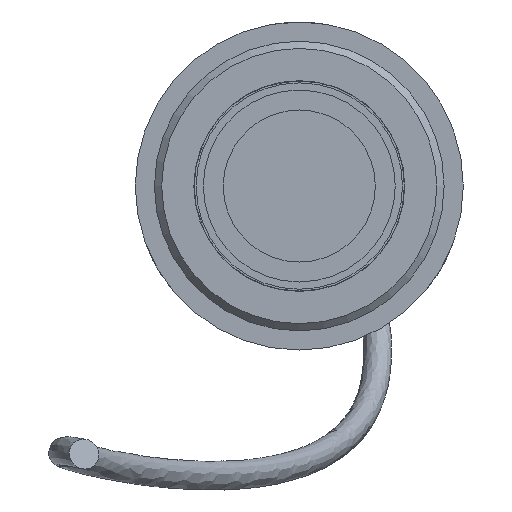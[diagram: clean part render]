
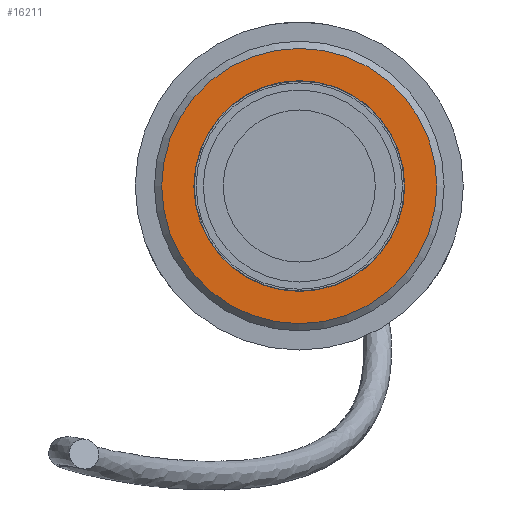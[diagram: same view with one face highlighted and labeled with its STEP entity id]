
A CAD part, front view. The second image highlights one B-rep face of the part: STEP entity #16211.
In plain terms, the highlighted planar face has unit normal (0, -1, 0).
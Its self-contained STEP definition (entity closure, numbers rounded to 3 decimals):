
#304=FACE_BOUND('',#2683,.T.);
#756=PLANE('',#17951);
#1741=FACE_OUTER_BOUND('',#2682,.T.);
#2682=EDGE_LOOP('',(#14251));
#2683=EDGE_LOOP('',(#14252,#14253));
#6359=CIRCLE('',#17950,19.);
#6360=CIRCLE('',#17952,14.55);
#6361=CIRCLE('',#17953,14.55);
#7786=VERTEX_POINT('',#30325);
#7787=VERTEX_POINT('',#30329);
#7788=VERTEX_POINT('',#30330);
#9983=EDGE_CURVE('',#7786,#7786,#6359,.T.);
#9984=EDGE_CURVE('',#7787,#7788,#6360,.T.);
#9985=EDGE_CURVE('',#7788,#7787,#6361,.T.);
#14251=ORIENTED_EDGE('',*,*,#9983,.F.);
#14252=ORIENTED_EDGE('',*,*,#9984,.T.);
#14253=ORIENTED_EDGE('',*,*,#9985,.T.);
#16211=ADVANCED_FACE('',(#1741,#304),#756,.T.);
#17950=AXIS2_PLACEMENT_3D('',#30327,#22098,#22099);
#17951=AXIS2_PLACEMENT_3D('',#30328,#22100,#22101);
#17952=AXIS2_PLACEMENT_3D('',#30331,#22102,#22103);
#17953=AXIS2_PLACEMENT_3D('',#30332,#22104,#22105);
#22098=DIRECTION('center_axis',(0.,1.,0.));
#22099=DIRECTION('ref_axis',(1.,0.,0.));
#22100=DIRECTION('center_axis',(0.,-1.,0.));
#22101=DIRECTION('ref_axis',(0.,0.,-1.));
#22102=DIRECTION('center_axis',(0.,1.,0.));
#22103=DIRECTION('ref_axis',(1.,0.,0.));
#22104=DIRECTION('center_axis',(0.,1.,0.));
#22105=DIRECTION('ref_axis',(1.,0.,0.));
#30325=CARTESIAN_POINT('',(-4.898,-46.,0.));
#30327=CARTESIAN_POINT('Origin',(14.102,-46.,0.));
#30328=CARTESIAN_POINT('Origin',(-5.898,-46.,0.));
#30329=CARTESIAN_POINT('',(-0.448,-46.,0.));
#30330=CARTESIAN_POINT('',(28.652,-46.,0.));
#30331=CARTESIAN_POINT('Origin',(14.102,-46.,0.));
#30332=CARTESIAN_POINT('Origin',(14.102,-46.,0.));
